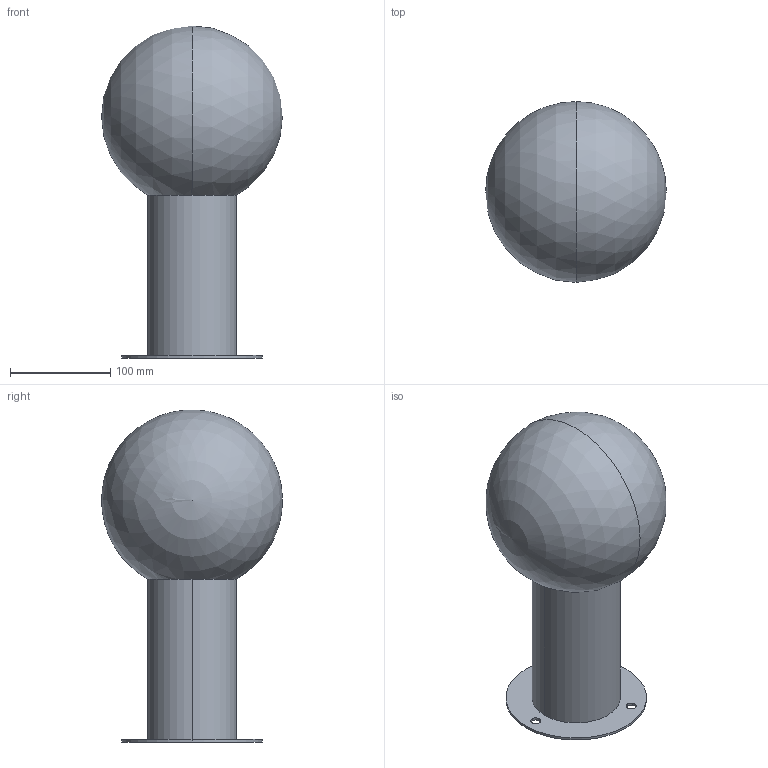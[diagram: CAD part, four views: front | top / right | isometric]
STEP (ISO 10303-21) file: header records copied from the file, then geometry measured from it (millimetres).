
FILE_DESCRIPTION(/* description */ (''),/* implementation_level */ '2;1');
FILE_NAME(/* name */ 'C:\Users\FrancoSartori\Documents\FARO\01_En Proceso\00_MOON BLUB´S MUFFIN MISTU\03_Publicación\74433S-01.stp',/* time_stamp */ '2021-05-11T12:46:38+02:00',/* author */ ('FrancoSartori'),/* organization */ (''),/* preprocessor_version */ 'ST-DEVELOPER v18.1',/* originating_system */ 'AutoCAD Mechanical',/* authorisation */ '');
FILE_SCHEMA (('AUTOMOTIVE_DESIGN { 1 0 10303 214 3 1 1 }'));
Length unit declared in the file: millimetre
Products named in the file (3): Product; 74433_ - LAMP-474775-Export; 74437P_MOON - MUFFIN-477722-Export
Assembly tree (2 placements, depth 2):
  Product
    74433_ - LAMP-474775-Export
    74437P_MOON - MUFFIN-477722-Export
Bounding box: 180 x 179.97 x 330.39 mm (x, y, z)
Volume: 572558.3 mm3; surface area: 325281.8 mm2
Topology: 3 solids, 3 shells, 35 faces, 82 edges, 50 vertices
Faces by surface type: cylinder 20, plane 11, sphere 4
Entity records: 1910 total; most frequent: CARTESIAN_POINT 990, DIRECTION 202, ORIENTED_EDGE 156, AXIS2_PLACEMENT_3D 88, EDGE_CURVE 78, VERTEX_POINT 50, CIRCLE 48, EDGE_LOOP 46
